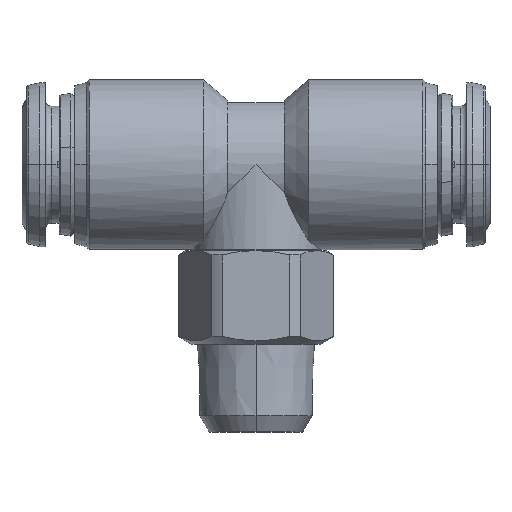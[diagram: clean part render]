
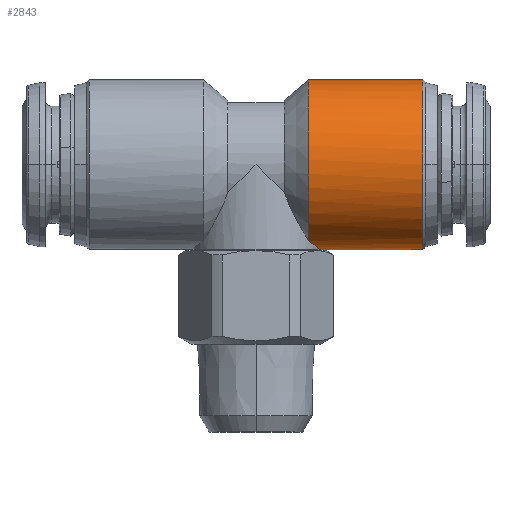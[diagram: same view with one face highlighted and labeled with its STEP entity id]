
A CAD part, top view. The second image highlights one B-rep face of the part: STEP entity #2843.
In plain terms, the highlighted cylindrical face has radius 7.25 mm (diameter 14.5 mm), a partial arc.
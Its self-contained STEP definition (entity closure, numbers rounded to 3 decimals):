
#6 = CARTESIAN_POINT ( 'NONE',  ( 4.794, 0.52, 2.71 ) ) ;
#71 = CARTESIAN_POINT ( 'NONE',  ( 14.268, 7.25, 0. ) ) ;
#108 = CARTESIAN_POINT ( 'NONE',  ( 4.5, 0.726, 3.162 ) ) ;
#284 = VERTEX_POINT ( 'NONE', #108 ) ;
#501 = DIRECTION ( 'NONE',  ( -1., 0., 0. ) ) ;
#546 = VECTOR ( 'NONE', #881, 1000. ) ;
#620 = ORIENTED_EDGE ( 'NONE', *, *, #1081, .T. ) ;
#798 = AXIS2_PLACEMENT_3D ( 'NONE', #71, #501, #3197 ) ;
#881 = DIRECTION ( 'NONE',  ( 1., 0., 0. ) ) ;
#886 = B_SPLINE_CURVE_WITH_KNOTS ( 'NONE', 3,
 ( #1504, #3444, #6, #2606, #3817, #4147, #1532, #3469, #1865, #2681 ),
 .UNSPECIFIED., .F., .F.,
 ( 4, 2, 2, 2, 4 ),
 ( 0.024, 0.024, 0.025, 0.026, 0.027 ),
 .UNSPECIFIED. ) ;
#956 = AXIS2_PLACEMENT_3D ( 'NONE', #1417, #3653, #3279 ) ;
#998 = EDGE_CURVE ( 'NONE', #2233, #1553, #1166, .T. ) ;
#1046 = VERTEX_POINT ( 'NONE', #2473 ) ;
#1081 = EDGE_CURVE ( 'NONE', #1046, #4176, #3252, .T. ) ;
#1113 = CIRCLE ( 'NONE', #798, 7.25 ) ;
#1166 = LINE ( 'NONE', #1597, #2390 ) ;
#1249 = CARTESIAN_POINT ( 'NONE',  ( 15.5, 14.5, 0. ) ) ;
#1417 = CARTESIAN_POINT ( 'NONE',  ( 15.5, 7.25, 0. ) ) ;
#1442 = EDGE_LOOP ( 'NONE', ( #4055, #4283, #2837, #620, #3689, #3814 ) ) ;
#1504 = CARTESIAN_POINT ( 'NONE',  ( 4.5, 0.726, 3.162 ) ) ;
#1532 = CARTESIAN_POINT ( 'NONE',  ( 5.387, 0.085, 1.145 ) ) ;
#1549 = CARTESIAN_POINT ( 'NONE',  ( 4.5, 14.5, 0. ) ) ;
#1553 = VERTEX_POINT ( 'NONE', #3769 ) ;
#1597 = CARTESIAN_POINT ( 'NONE',  ( 15.5, 0., 0. ) ) ;
#1697 = CARTESIAN_POINT ( 'NONE',  ( 14.268, 7.25, 0. ) ) ;
#1772 = EDGE_CURVE ( 'NONE', #4300, #4176, #2414, .T. ) ;
#1865 = CARTESIAN_POINT ( 'NONE',  ( 5.5, 0., 0.291 ) ) ;
#1883 = CARTESIAN_POINT ( 'NONE',  ( 14.268, 14.5, 0. ) ) ;
#2132 = FACE_OUTER_BOUND ( 'NONE', #1442, .T. ) ;
#2233 = VERTEX_POINT ( 'NONE', #2819 ) ;
#2390 = VECTOR ( 'NONE', #3120, 1000. ) ;
#2414 = LINE ( 'NONE', #1249, #546 ) ;
#2473 = CARTESIAN_POINT ( 'NONE',  ( 14.268, 7.25, 7.25 ) ) ;
#2606 = CARTESIAN_POINT ( 'NONE',  ( 5.04, 0.343, 2.219 ) ) ;
#2607 = CARTESIAN_POINT ( 'NONE',  ( 4.5, 7.25, 0. ) ) ;
#2642 = AXIS2_PLACEMENT_3D ( 'NONE', #2607, #3001, #4927 ) ;
#2681 = CARTESIAN_POINT ( 'NONE',  ( 5.5, 0., 0. ) ) ;
#2819 = CARTESIAN_POINT ( 'NONE',  ( 5.5, 0., 0. ) ) ;
#2823 = DIRECTION ( 'NONE',  ( 0., 0., 1. ) ) ;
#2837 = ORIENTED_EDGE ( 'NONE', *, *, #2990, .T. ) ;
#2843 = ADVANCED_FACE ( 'NONE', ( #2132 ), #2916, .T. ) ;
#2916 = CYLINDRICAL_SURFACE ( 'NONE', #956, 7.25 ) ;
#2990 = EDGE_CURVE ( 'NONE', #1553, #1046, #1113, .T. ) ;
#3001 = DIRECTION ( 'NONE',  ( 1., 0., 0. ) ) ;
#3120 = DIRECTION ( 'NONE',  ( 1., 0., 0. ) ) ;
#3197 = DIRECTION ( 'NONE',  ( 0., 0., 1. ) ) ;
#3221 = DIRECTION ( 'NONE',  ( -1., 0., 0. ) ) ;
#3252 = CIRCLE ( 'NONE', #4468, 7.25 ) ;
#3279 = DIRECTION ( 'NONE',  ( 0., 1., 0. ) ) ;
#3444 = CARTESIAN_POINT ( 'NONE',  ( 4.655, 0.619, 2.942 ) ) ;
#3469 = CARTESIAN_POINT ( 'NONE',  ( 5.477, 0.018, 0.582 ) ) ;
#3653 = DIRECTION ( 'NONE',  ( 1., 0., 0. ) ) ;
#3679 = EDGE_CURVE ( 'NONE', #284, #2233, #886, .T. ) ;
#3689 = ORIENTED_EDGE ( 'NONE', *, *, #1772, .F. ) ;
#3769 = CARTESIAN_POINT ( 'NONE',  ( 14.268, 0., 0. ) ) ;
#3814 = ORIENTED_EDGE ( 'NONE', *, *, #4887, .T. ) ;
#3817 = CARTESIAN_POINT ( 'NONE',  ( 5.148, 0.264, 1.958 ) ) ;
#4055 = ORIENTED_EDGE ( 'NONE', *, *, #3679, .T. ) ;
#4147 = CARTESIAN_POINT ( 'NONE',  ( 5.321, 0.135, 1.42 ) ) ;
#4176 = VERTEX_POINT ( 'NONE', #1883 ) ;
#4283 = ORIENTED_EDGE ( 'NONE', *, *, #998, .T. ) ;
#4300 = VERTEX_POINT ( 'NONE', #1549 ) ;
#4417 = CIRCLE ( 'NONE', #2642, 7.25 ) ;
#4468 = AXIS2_PLACEMENT_3D ( 'NONE', #1697, #3221, #2823 ) ;
#4887 = EDGE_CURVE ( 'NONE', #4300, #284, #4417, .T. ) ;
#4927 = DIRECTION ( 'NONE',  ( 0., 1., 0. ) ) ;
